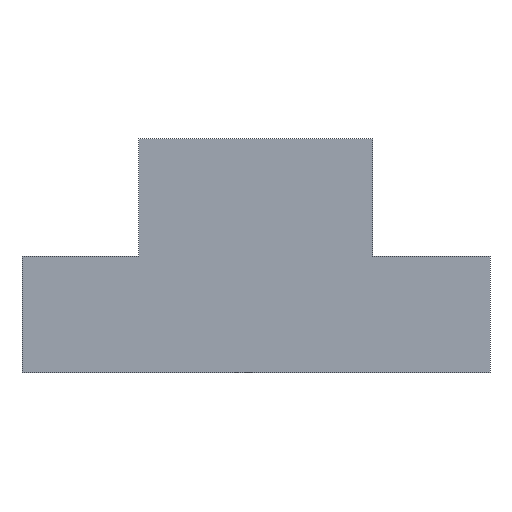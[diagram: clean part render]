
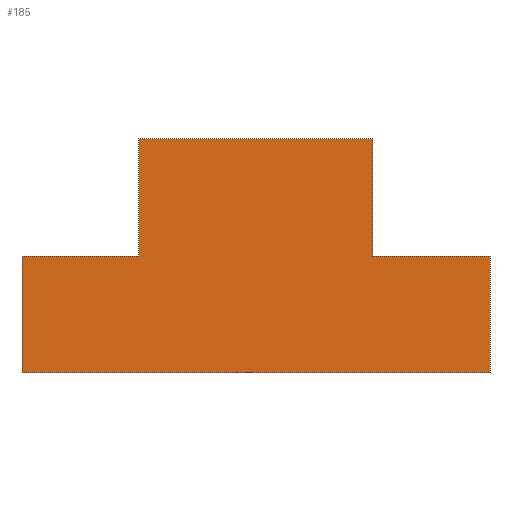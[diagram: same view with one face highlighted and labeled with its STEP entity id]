
A CAD part, front view. The second image highlights one B-rep face of the part: STEP entity #185.
In plain terms, the highlighted planar face has unit normal (0, -1, 0).
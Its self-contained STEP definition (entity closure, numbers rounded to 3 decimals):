
#23=FACE_OUTER_BOUND('',#34,.T.);
#34=EDGE_LOOP('',(#150,#151,#152,#153,#154,#155,#156,#157));
#41=LINE('',#278,#64);
#45=LINE('',#285,#68);
#48=LINE('',#291,#71);
#49=LINE('',#294,#72);
#51=LINE('',#297,#74);
#56=LINE('',#307,#79);
#57=LINE('',#310,#80);
#58=LINE('',#311,#81);
#64=VECTOR('',#229,10.);
#68=VECTOR('',#235,10.);
#71=VECTOR('',#240,10.);
#72=VECTOR('',#243,10.);
#74=VECTOR('',#247,10.);
#79=VECTOR('',#256,10.);
#80=VECTOR('',#259,10.);
#81=VECTOR('',#260,10.);
#86=VERTEX_POINT('',#275);
#87=VERTEX_POINT('',#277);
#88=VERTEX_POINT('',#281);
#89=VERTEX_POINT('',#283);
#91=VERTEX_POINT('',#289);
#92=VERTEX_POINT('',#293);
#95=VERTEX_POINT('',#305);
#96=VERTEX_POINT('',#309);
#101=EDGE_CURVE('',#86,#87,#41,.T.);
#105=EDGE_CURVE('',#89,#88,#45,.T.);
#108=EDGE_CURVE('',#89,#91,#48,.T.);
#109=EDGE_CURVE('',#87,#92,#49,.T.);
#111=EDGE_CURVE('',#92,#91,#51,.T.);
#116=EDGE_CURVE('',#86,#95,#56,.T.);
#117=EDGE_CURVE('',#96,#95,#57,.T.);
#118=EDGE_CURVE('',#88,#96,#58,.T.);
#150=ORIENTED_EDGE('',*,*,#116,.T.);
#151=ORIENTED_EDGE('',*,*,#117,.F.);
#152=ORIENTED_EDGE('',*,*,#118,.F.);
#153=ORIENTED_EDGE('',*,*,#105,.F.);
#154=ORIENTED_EDGE('',*,*,#108,.T.);
#155=ORIENTED_EDGE('',*,*,#111,.F.);
#156=ORIENTED_EDGE('',*,*,#109,.F.);
#157=ORIENTED_EDGE('',*,*,#101,.F.);
#174=PLANE('',#216);
#185=ADVANCED_FACE('',(#23),#174,.T.);
#216=AXIS2_PLACEMENT_3D('',#308,#257,#258);
#229=DIRECTION('',(1.,0.,0.));
#235=DIRECTION('',(1.,0.,0.));
#240=DIRECTION('',(0.,0.,-1.));
#243=DIRECTION('',(0.,0.,-1.));
#247=DIRECTION('',(-1.,0.,0.));
#256=DIRECTION('',(0.,0.,1.));
#257=DIRECTION('center_axis',(0.,-1.,0.));
#258=DIRECTION('ref_axis',(1.,0.,0.));
#259=DIRECTION('',(1.,0.,0.));
#260=DIRECTION('',(0.,0.,1.));
#275=CARTESIAN_POINT('',(15.,-25.,0.));
#277=CARTESIAN_POINT('',(30.,-25.,0.));
#278=CARTESIAN_POINT('',(-30.,-25.,0.));
#281=CARTESIAN_POINT('',(-15.,-25.,0.));
#283=CARTESIAN_POINT('',(-30.,-25.,0.));
#285=CARTESIAN_POINT('',(-30.,-25.,0.));
#289=CARTESIAN_POINT('',(-30.,-25.,-15.));
#291=CARTESIAN_POINT('',(-30.,-25.,0.));
#293=CARTESIAN_POINT('',(30.,-25.,-15.));
#294=CARTESIAN_POINT('',(30.,-25.,0.));
#297=CARTESIAN_POINT('',(-30.,-25.,-15.));
#305=CARTESIAN_POINT('',(15.,-25.,15.));
#307=CARTESIAN_POINT('',(15.,-25.,0.));
#308=CARTESIAN_POINT('Origin',(-15.,-25.,0.));
#309=CARTESIAN_POINT('',(-15.,-25.,15.));
#310=CARTESIAN_POINT('',(-30.,-25.,15.));
#311=CARTESIAN_POINT('',(-15.,-25.,0.));
